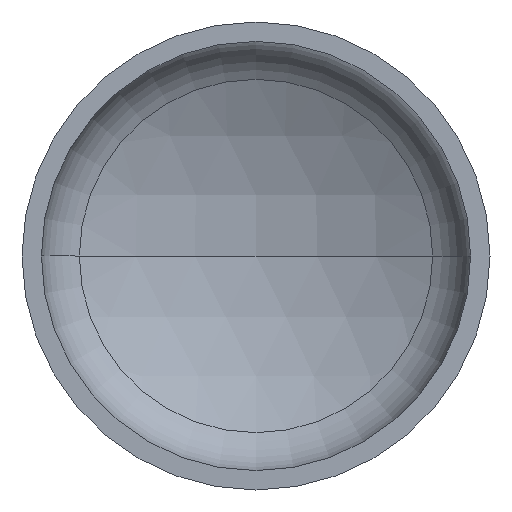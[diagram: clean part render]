
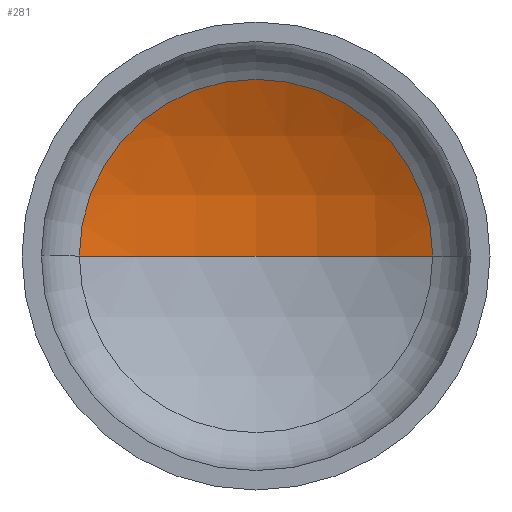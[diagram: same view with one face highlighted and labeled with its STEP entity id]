
A CAD part, front view. The second image highlights one B-rep face of the part: STEP entity #281.
In plain terms, the highlighted spherical face has radius 2240 mm.
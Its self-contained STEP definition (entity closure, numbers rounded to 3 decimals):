
#17 = AXIS2_PLACEMENT_3D ( 'NONE', #212, #215, #34 ) ;
#18 = AXIS2_PLACEMENT_3D ( 'NONE', #367, #157, #98 ) ;
#23 = EDGE_LOOP ( 'NONE', ( #147, #94, #141 ) ) ;
#25 = AXIS2_PLACEMENT_3D ( 'NONE', #266, #54, #377 ) ;
#30 = AXIS2_PLACEMENT_3D ( 'NONE', #240, #201, #262 ) ;
#34 = DIRECTION ( 'NONE',  ( 1., 0., 0. ) ) ;
#54 = DIRECTION ( 'NONE',  ( 0., -1., 0. ) ) ;
#79 = FACE_OUTER_BOUND ( 'NONE', #23, .T. ) ;
#90 = VERTEX_POINT ( 'NONE', #323 ) ;
#94 = ORIENTED_EDGE ( 'NONE', *, *, #344, .T. ) ;
#98 = DIRECTION ( 'NONE',  ( -1., 0., 0. ) ) ;
#102 = VERTEX_POINT ( 'NONE', #289 ) ;
#112 = VERTEX_POINT ( 'NONE', #174 ) ;
#141 = ORIENTED_EDGE ( 'NONE', *, *, #343, .T. ) ;
#147 = ORIENTED_EDGE ( 'NONE', *, *, #346, .F. ) ;
#157 = DIRECTION ( 'NONE',  ( 0., 0., -1. ) ) ;
#174 = CARTESIAN_POINT ( 'NONE',  ( -1056.884, 454.128, 0. ) ) ;
#201 = DIRECTION ( 'NONE',  ( 0., 0., -1. ) ) ;
#212 = CARTESIAN_POINT ( 'NONE',  ( 0., -1520.865, 0. ) ) ;
#215 = DIRECTION ( 'NONE',  ( 0., 0., 1. ) ) ;
#240 = CARTESIAN_POINT ( 'NONE',  ( 0., -1520.865, 0. ) ) ;
#262 = DIRECTION ( 'NONE',  ( -1., 0., 0. ) ) ;
#266 = CARTESIAN_POINT ( 'NONE',  ( 0., 454.128, 0. ) ) ;
#281 = ADVANCED_FACE ( 'NONE', ( #79 ), #305, .F. ) ;
#289 = CARTESIAN_POINT ( 'NONE',  ( 0., 719.135, 0. ) ) ;
#292 = CIRCLE ( 'NONE', #25, 1056.884 ) ;
#305 = SPHERICAL_SURFACE ( 'NONE', #30, 2240. ) ;
#323 = CARTESIAN_POINT ( 'NONE',  ( 1056.884, 454.128, 0. ) ) ;
#343 = EDGE_CURVE ( 'NONE', #90, #112, #292, .T. ) ;
#344 = EDGE_CURVE ( 'NONE', #102, #90, #355, .T. ) ;
#346 = EDGE_CURVE ( 'NONE', #102, #112, #348, .T. ) ;
#348 = CIRCLE ( 'NONE', #17, 2240. ) ;
#355 = CIRCLE ( 'NONE', #18, 2240. ) ;
#367 = CARTESIAN_POINT ( 'NONE',  ( 0., -1520.865, 0. ) ) ;
#377 = DIRECTION ( 'NONE',  ( 1., 0., 0. ) ) ;
